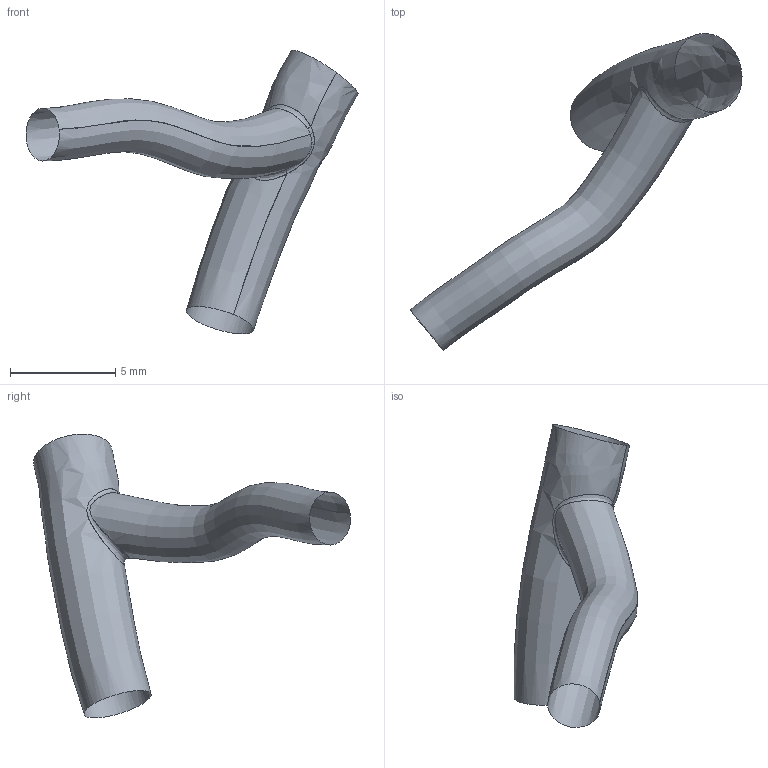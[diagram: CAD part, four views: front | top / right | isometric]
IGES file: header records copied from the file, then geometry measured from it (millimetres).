
Global section: file name: C:\Documents and Settings\Administrator\Desktop\FDA-Pig\Domestic LCA\Pig_000010\lcx.ed.igs; native system: Rhinoceros ( May 19 2006 ); preprocessor: Trout Lake IGES 012 May 19 2006; date: 111205.183750; units: centimetre
Bounding box: 15.76 x 15.05 x 13.47 mm (x, y, z)
Surface area: 267.7 mm2 (no closed solid volume)
Topology: 0 solids, 0 shells, 5 faces, 53 edges, 52 vertices
Faces by surface type: bspline 5
